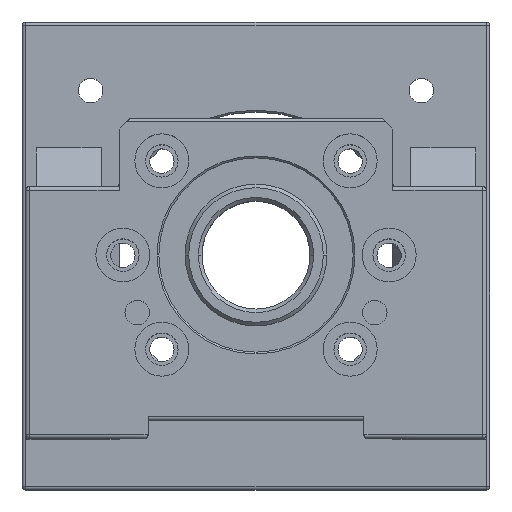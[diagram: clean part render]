
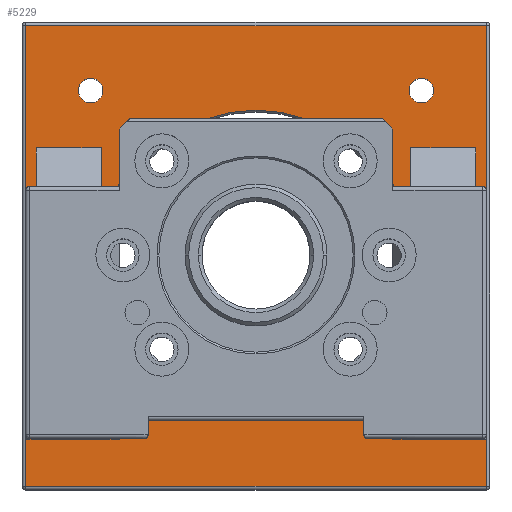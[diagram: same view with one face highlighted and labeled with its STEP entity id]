
A CAD part, top view. The second image highlights one B-rep face of the part: STEP entity #5229.
In plain terms, the highlighted planar face has unit normal (0, 0, 1).
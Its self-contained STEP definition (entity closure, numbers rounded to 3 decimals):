
#2113=CARTESIAN_POINT('',(-45.962,-45.962,20.));
#2114=DIRECTION('',(0.,0.,-1.));
#2115=DIRECTION('',(0.871,0.491,0.));
#2116=AXIS2_PLACEMENT_3D('',#2113,#2114,#2115);
#2118=DIRECTION('',(-1.,0.,0.));
#2119=VECTOR('',#2118,17.);
#2120=CARTESIAN_POINT('',(-44.,-51.,20.));
#2121=LINE('',#2120,#2119);
#2122=CARTESIAN_POINT('',(-44.,-50.,20.));
#2123=DIRECTION('',(0.,0.,-1.));
#2124=DIRECTION('',(1.,0.,0.));
#2125=AXIS2_PLACEMENT_3D('',#2122,#2123,#2124);
#2127=CARTESIAN_POINT('',(-45.962,-45.962,20.));
#2128=DIRECTION('',(0.,0.,-1.));
#2129=DIRECTION('',(1.,0.,0.));
#2130=AXIS2_PLACEMENT_3D('',#2127,#2128,#2129);
#2132=CARTESIAN_POINT('',(45.962,-45.962,20.));
#2133=DIRECTION('',(0.,0.,-1.));
#2134=DIRECTION('',(-0.871,-0.491,0.));
#2135=AXIS2_PLACEMENT_3D('',#2132,#2133,#2134);
#2137=CARTESIAN_POINT('',(44.,-50.,20.));
#2138=DIRECTION('',(0.,0.,-1.));
#2139=DIRECTION('',(0.,-1.,0.));
#2140=AXIS2_PLACEMENT_3D('',#2137,#2138,#2139);
#2142=DIRECTION('',(-1.,0.,0.));
#2143=VECTOR('',#2142,16.);
#2144=CARTESIAN_POINT('',(60.,-51.,20.));
#2145=LINE('',#2144,#2143);
#2146=CARTESIAN_POINT('',(60.,-50.,20.));
#2147=DIRECTION('',(0.,0.,-1.));
#2148=DIRECTION('',(1.,0.,0.));
#2149=AXIS2_PLACEMENT_3D('',#2146,#2147,#2148);
#2151=CARTESIAN_POINT('',(45.962,-45.962,20.));
#2152=DIRECTION('',(0.,0.,-1.));
#2153=DIRECTION('',(-1.,0.,0.));
#2154=AXIS2_PLACEMENT_3D('',#2151,#2152,#2153);
#2156=CARTESIAN_POINT('',(45.962,45.962,20.));
#2157=DIRECTION('',(0.,0.,-1.));
#2158=DIRECTION('',(-1.,0.,0.));
#2159=AXIS2_PLACEMENT_3D('',#2156,#2157,#2158);
#2161=CARTESIAN_POINT('',(45.962,45.962,20.));
#2162=DIRECTION('',(0.,0.,-1.));
#2163=DIRECTION('',(1.,0.,0.));
#2164=AXIS2_PLACEMENT_3D('',#2161,#2162,#2163);
#2166=CARTESIAN_POINT('',(-45.962,45.962,20.));
#2167=DIRECTION('',(0.,0.,-1.));
#2168=DIRECTION('',(-1.,0.,0.));
#2169=AXIS2_PLACEMENT_3D('',#2166,#2167,#2168);
#2171=CARTESIAN_POINT('',(-45.962,45.962,20.));
#2172=DIRECTION('',(0.,0.,-1.));
#2173=DIRECTION('',(1.,0.,0.));
#2174=AXIS2_PLACEMENT_3D('',#2171,#2172,#2173);
#2176=CARTESIAN_POINT('',(0.,0.,20.));
#2177=DIRECTION('',(0.,0.,-1.));
#2178=DIRECTION('',(1.,0.,0.));
#2179=AXIS2_PLACEMENT_3D('',#2176,#2177,#2178);
#2181=CARTESIAN_POINT('',(0.,0.,20.));
#2182=DIRECTION('',(0.,0.,-1.));
#2183=DIRECTION('',(-1.,0.,0.));
#2184=AXIS2_PLACEMENT_3D('',#2181,#2182,#2183);
#2186=DIRECTION('',(0.,1.,0.));
#2187=VECTOR('',#2186,128.);
#2188=CARTESIAN_POINT('',(-64.,-64.,20.));
#2189=LINE('',#2188,#2187);
#2209=DIRECTION('',(1.,0.,0.));
#2210=VECTOR('',#2209,128.);
#2211=CARTESIAN_POINT('',(-64.,64.,20.));
#2212=LINE('',#2211,#2210);
#2387=DIRECTION('',(-1.,0.,0.));
#2388=VECTOR('',#2387,128.);
#2389=CARTESIAN_POINT('',(64.,-64.,20.));
#2390=LINE('',#2389,#2388);
#2433=DIRECTION('',(0.,-1.,0.));
#2434=VECTOR('',#2433,128.);
#2435=CARTESIAN_POINT('',(64.,64.,20.));
#2436=LINE('',#2435,#2434);
#2468=CARTESIAN_POINT('',(43.,-47.631,20.));
#2496=DIRECTION('',(0.,-1.,0.));
#2497=VECTOR('',#2496,74.293);
#2498=CARTESIAN_POINT('',(43.,30.,20.));
#2499=LINE('',#2498,#2497);
#2508=DIRECTION('',(0.,-1.,0.));
#2509=VECTOR('',#2508,2.369);
#2510=CARTESIAN_POINT('',(43.,-47.631,20.));
#2511=LINE('',#2510,#2509);
#2512=DIRECTION('',(-1.,0.,0.));
#2513=VECTOR('',#2512,18.);
#2514=CARTESIAN_POINT('',(61.,30.,20.));
#2515=LINE('',#2514,#2513);
#2531=DIRECTION('',(0.,1.,0.));
#2532=VECTOR('',#2531,80.);
#2533=CARTESIAN_POINT('',(61.,-50.,20.));
#2534=LINE('',#2533,#2532);
#3845=DIRECTION('',(0.,-1.,0.));
#3846=VECTOR('',#3845,81.);
#3847=CARTESIAN_POINT('',(-61.,30.,20.));
#3848=LINE('',#3847,#3846);
#3853=DIRECTION('',(-1.,0.,0.));
#3854=VECTOR('',#3853,18.);
#3855=CARTESIAN_POINT('',(-43.,30.,20.));
#3856=LINE('',#3855,#3854);
#3868=DIRECTION('',(0.,1.,0.));
#3869=VECTOR('',#3868,2.369);
#3870=CARTESIAN_POINT('',(-43.,-50.,20.));
#3871=LINE('',#3870,#3869);
#3880=DIRECTION('',(0.,1.,0.));
#3881=VECTOR('',#3880,74.293);
#3882=CARTESIAN_POINT('',(-43.,-44.293,20.));
#3883=LINE('',#3882,#3881);
#4591=CARTESIAN_POINT('',(49.362,45.962,20.));
#4592=CARTESIAN_POINT('',(42.562,45.962,20.));
#4593=VERTEX_POINT('',#4591);
#4594=VERTEX_POINT('',#4592);
#4598=CARTESIAN_POINT('',(64.,64.,20.));
#4600=VERTEX_POINT('',#4598);
#4614=CARTESIAN_POINT('',(-42.562,-45.962,20.));
#4616=VERTEX_POINT('',#4614);
#4675=CARTESIAN_POINT('',(-64.,64.,20.));
#4676=VERTEX_POINT('',#4675);
#4696=CARTESIAN_POINT('',(-44.,-51.,20.));
#4697=CARTESIAN_POINT('',(-61.,-51.,20.));
#4698=VERTEX_POINT('',#4696);
#4699=VERTEX_POINT('',#4697);
#4733=CARTESIAN_POINT('',(-61.,30.,20.));
#4734=VERTEX_POINT('',#4733);
#4735=CARTESIAN_POINT('',(-43.,-47.631,20.));
#4737=VERTEX_POINT('',#4735);
#4739=CARTESIAN_POINT('',(-64.,-64.,20.));
#4740=VERTEX_POINT('',#4739);
#4755=VERTEX_POINT('',#2468);
#4822=CARTESIAN_POINT('',(61.,-50.,20.));
#4824=VERTEX_POINT('',#4822);
#4829=CARTESIAN_POINT('',(43.,30.,20.));
#4831=VERTEX_POINT('',#4829);
#4842=CARTESIAN_POINT('',(60.,-51.,20.));
#4843=CARTESIAN_POINT('',(44.,-51.,20.));
#4844=VERTEX_POINT('',#4842);
#4845=VERTEX_POINT('',#4843);
#4852=CARTESIAN_POINT('',(-42.562,45.962,20.));
#4853=CARTESIAN_POINT('',(-49.362,45.962,20.));
#4854=VERTEX_POINT('',#4852);
#4855=VERTEX_POINT('',#4853);
#4861=CARTESIAN_POINT('',(43.,-50.,20.));
#4862=VERTEX_POINT('',#4861);
#4920=CARTESIAN_POINT('',(42.562,-45.962,20.));
#4921=CARTESIAN_POINT('',(43.,-44.293,20.));
#4922=VERTEX_POINT('',#4920);
#4923=VERTEX_POINT('',#4921);
#4924=CARTESIAN_POINT('',(40.5,0.,20.));
#4925=VERTEX_POINT('',#4924);
#4954=CARTESIAN_POINT('',(64.,-64.,20.));
#4955=VERTEX_POINT('',#4954);
#4958=CARTESIAN_POINT('',(-43.,30.,20.));
#4959=VERTEX_POINT('',#4958);
#4979=CARTESIAN_POINT('',(-43.,-50.,20.));
#4980=VERTEX_POINT('',#4979);
#5013=CARTESIAN_POINT('',(-40.5,0.,20.));
#5014=VERTEX_POINT('',#5013);
#5065=CARTESIAN_POINT('',(-43.,-44.293,20.));
#5066=VERTEX_POINT('',#5065);
#5072=CARTESIAN_POINT('',(61.,30.,20.));
#5073=VERTEX_POINT('',#5072);
#5159=CARTESIAN_POINT('',(0.,0.,20.));
#5160=DIRECTION('',(0.,0.,1.));
#5161=DIRECTION('',(1.,0.,0.));
#5162=AXIS2_PLACEMENT_3D('',#5159,#5160,#5161);
#5163=PLANE('',#5162);
#5165=ORIENTED_EDGE('',*,*,#5164,.T.);
#5167=ORIENTED_EDGE('',*,*,#5166,.T.);
#5169=ORIENTED_EDGE('',*,*,#5168,.T.);
#5171=ORIENTED_EDGE('',*,*,#5170,.T.);
#5172=EDGE_LOOP('',(#5165,#5167,#5169,#5171));
#5173=FACE_OUTER_BOUND('',#5172,.F.);
#5175=ORIENTED_EDGE('',*,*,#5174,.F.);
#5177=ORIENTED_EDGE('',*,*,#5176,.T.);
#5179=ORIENTED_EDGE('',*,*,#5178,.T.);
#5181=ORIENTED_EDGE('',*,*,#5180,.T.);
#5183=ORIENTED_EDGE('',*,*,#5182,.F.);
#5185=ORIENTED_EDGE('',*,*,#5184,.F.);
#5187=ORIENTED_EDGE('',*,*,#5186,.T.);
#5188=ORIENTED_EDGE('',*,*,#5147,.F.);
#5189=EDGE_LOOP('',(#5175,#5177,#5179,#5181,#5183,#5185,#5187,#5188));
#5190=FACE_BOUND('',#5189,.F.);
#5192=ORIENTED_EDGE('',*,*,#5191,.F.);
#5194=ORIENTED_EDGE('',*,*,#5193,.T.);
#5196=ORIENTED_EDGE('',*,*,#5195,.F.);
#5198=ORIENTED_EDGE('',*,*,#5197,.F.);
#5200=ORIENTED_EDGE('',*,*,#5199,.F.);
#5202=ORIENTED_EDGE('',*,*,#5201,.T.);
#5204=ORIENTED_EDGE('',*,*,#5203,.T.);
#5206=ORIENTED_EDGE('',*,*,#5205,.T.);
#5208=ORIENTED_EDGE('',*,*,#5207,.F.);
#5209=EDGE_LOOP('',(#5192,#5194,#5196,#5198,#5200,#5202,#5204,#5206,#5208));
#5210=FACE_BOUND('',#5209,.F.);
#5212=ORIENTED_EDGE('',*,*,#5211,.F.);
#5214=ORIENTED_EDGE('',*,*,#5213,.F.);
#5215=EDGE_LOOP('',(#5212,#5214));
#5216=FACE_BOUND('',#5215,.F.);
#5218=ORIENTED_EDGE('',*,*,#5217,.F.);
#5220=ORIENTED_EDGE('',*,*,#5219,.F.);
#5221=EDGE_LOOP('',(#5218,#5220));
#5222=FACE_BOUND('',#5221,.F.);
#5224=ORIENTED_EDGE('',*,*,#5223,.F.);
#5226=ORIENTED_EDGE('',*,*,#5225,.F.);
#5227=EDGE_LOOP('',(#5224,#5226));
#5228=FACE_BOUND('',#5227,.F.);
#2117=CIRCLE('',#2116,3.4);
#2126=CIRCLE('',#2125,1.);
#2131=CIRCLE('',#2130,3.4);
#2136=CIRCLE('',#2135,3.4);
#2141=CIRCLE('',#2140,1.);
#2150=CIRCLE('',#2149,1.);
#2155=CIRCLE('',#2154,3.4);
#2160=CIRCLE('',#2159,3.4);
#2165=CIRCLE('',#2164,3.4);
#2170=CIRCLE('',#2169,3.4);
#2175=CIRCLE('',#2174,3.4);
#2180=CIRCLE('',#2179,40.5);
#2185=CIRCLE('',#2184,40.5);
#5147=EDGE_CURVE('',#4616,#4737,#2131,.T.);
#5164=EDGE_CURVE('',#4740,#4676,#2189,.T.);
#5166=EDGE_CURVE('',#4676,#4600,#2212,.T.);
#5168=EDGE_CURVE('',#4600,#4955,#2436,.T.);
#5170=EDGE_CURVE('',#4955,#4740,#2390,.T.);
#5174=EDGE_CURVE('',#5066,#4616,#2117,.T.);
#5176=EDGE_CURVE('',#5066,#4959,#3883,.T.);
#5178=EDGE_CURVE('',#4959,#4734,#3856,.T.);
#5180=EDGE_CURVE('',#4734,#4699,#3848,.T.);
#5182=EDGE_CURVE('',#4698,#4699,#2121,.T.);
#5184=EDGE_CURVE('',#4980,#4698,#2126,.T.);
#5186=EDGE_CURVE('',#4980,#4737,#3871,.T.);
#5191=EDGE_CURVE('',#4755,#4922,#2136,.T.);
#5193=EDGE_CURVE('',#4755,#4862,#2511,.T.);
#5195=EDGE_CURVE('',#4845,#4862,#2141,.T.);
#5197=EDGE_CURVE('',#4844,#4845,#2145,.T.);
#5199=EDGE_CURVE('',#4824,#4844,#2150,.T.);
#5201=EDGE_CURVE('',#4824,#5073,#2534,.T.);
#5203=EDGE_CURVE('',#5073,#4831,#2515,.T.);
#5205=EDGE_CURVE('',#4831,#4923,#2499,.T.);
#5207=EDGE_CURVE('',#4922,#4923,#2155,.T.);
#5211=EDGE_CURVE('',#4594,#4593,#2160,.T.);
#5213=EDGE_CURVE('',#4593,#4594,#2165,.T.);
#5217=EDGE_CURVE('',#4855,#4854,#2170,.T.);
#5219=EDGE_CURVE('',#4854,#4855,#2175,.T.);
#5223=EDGE_CURVE('',#4925,#5014,#2180,.T.);
#5225=EDGE_CURVE('',#5014,#4925,#2185,.T.);
#5229=ADVANCED_FACE('',(#5173,#5190,#5210,#5216,#5222,#5228),#5163,.T.);
